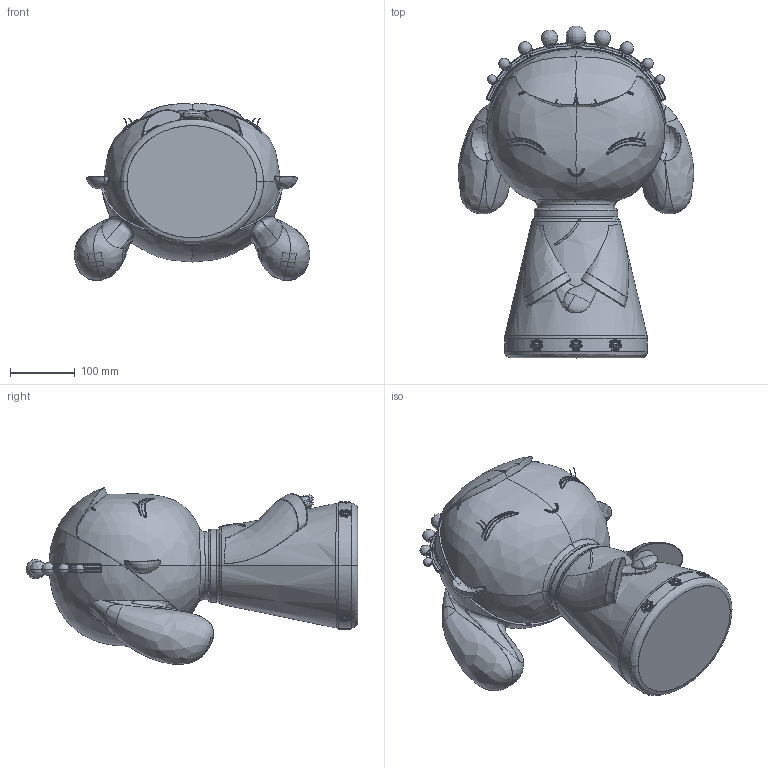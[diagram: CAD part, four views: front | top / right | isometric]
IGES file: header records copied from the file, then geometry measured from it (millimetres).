
Start section:  PTC IGES file: woman_.igs
Global section: file name: woman_.igs; native system: Pro/ENGINEER by Parametric Technology Corporation; preprocessor: 2010280; author: Administrator; organization: Unknown; date: 20140425.182011; units: millimetre
Bounding box: 363.94 x 512.48 x 273.5 mm (x, y, z)
Surface area: 474235.8 mm2 (no closed solid volume)
Topology: 0 solids, 0 shells, 635 faces, 3000 edges, 2970 vertices
Faces by surface type: bspline 597, revolution 32, extrusion 6
